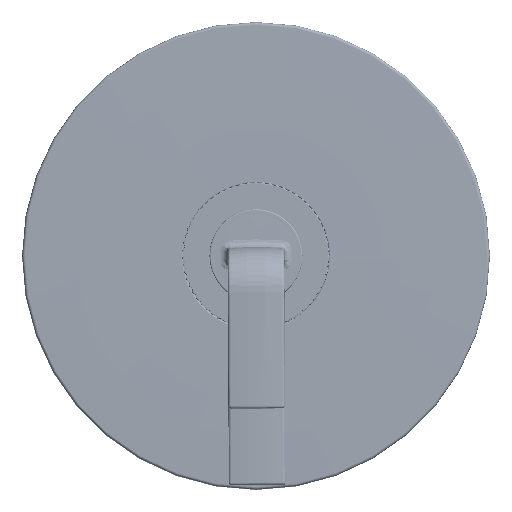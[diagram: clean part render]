
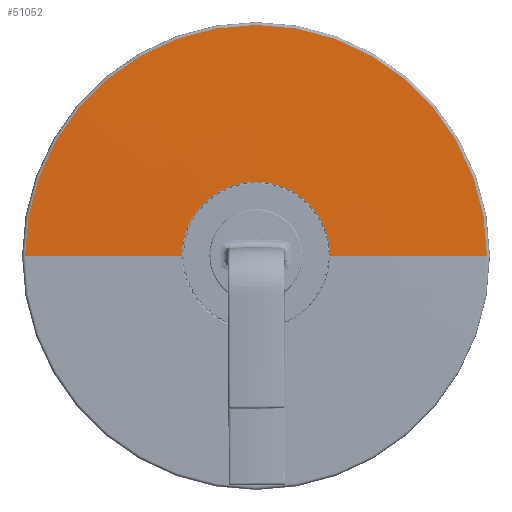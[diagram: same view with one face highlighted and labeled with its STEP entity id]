
A CAD part, top view. The second image highlights one B-rep face of the part: STEP entity #51052.
In plain terms, the highlighted toroidal (fillet/blend) face has major radius 25.718 mm and minor radius 3179.32 mm.
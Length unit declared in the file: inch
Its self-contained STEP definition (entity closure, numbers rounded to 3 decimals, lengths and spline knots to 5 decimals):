
#21396 = DIRECTION ( 'NONE',  ( 0., 1., 0. ) ) ;
#51052 = ADVANCED_FACE ( 'NONE', ( #579165 ), #390636, .T. ) ;
#72453 = DIRECTION ( 'NONE',  ( 0., -1., 0. ) ) ;
#127222 = ORIENTED_EDGE ( 'NONE', *, *, #437115, .T. ) ;
#139523 = CARTESIAN_POINT ( 'NONE',  ( 1.0125, 0., -124.67016 ) ) ;
#144097 = ORIENTED_EDGE ( 'NONE', *, *, #641010, .T. ) ;
#155013 = DIRECTION ( 'NONE',  ( 0., 0., 1. ) ) ;
#163034 = DIRECTION ( 'NONE',  ( 0., 0., -1. ) ) ;
#181475 = VERTEX_POINT ( 'NONE', #527647 ) ;
#221951 = CARTESIAN_POINT ( 'NONE',  ( 0., 0., 0.5 ) ) ;
#223650 = AXIS2_PLACEMENT_3D ( 'NONE', #638175, #634719, #432888 ) ;
#260515 = VERTEX_POINT ( 'NONE', #633306 ) ;
#266165 = CARTESIAN_POINT ( 'NONE',  ( 0., 0., 0.48076 ) ) ;
#332972 = VERTEX_POINT ( 'NONE', #576419 ) ;
#334150 = VERTEX_POINT ( 'NONE', #554864 ) ;
#337516 = CIRCLE ( 'NONE', #404196, 125.17016 ) ;
#360241 = EDGE_CURVE ( 'NONE', #332972, #334150, #434023, .T. ) ;
#367170 = DIRECTION ( 'NONE',  ( -1., 0., 0. ) ) ;
#375232 = DIRECTION ( 'NONE',  ( -1., 0., 0. ) ) ;
#390636 = TOROIDAL_SURFACE ( 'NONE', #223650, 1.0125, 125.17016 ) ;
#402970 = EDGE_LOOP ( 'NONE', ( #144097, #127222, #539887, #464485 ) ) ;
#404196 = AXIS2_PLACEMENT_3D ( 'NONE', #139523, #21396, #511760 ) ;
#425570 = AXIS2_PLACEMENT_3D ( 'NONE', #637193, #72453, #640626 ) ;
#432888 = DIRECTION ( 'NONE',  ( -1., 0., 0. ) ) ;
#434023 = CIRCLE ( 'NONE', #522929, 3.20702 ) ;
#437115 = EDGE_CURVE ( 'NONE', #181475, #332972, #337516, .T. ) ;
#464485 = ORIENTED_EDGE ( 'NONE', *, *, #466815, .F. ) ;
#466815 = EDGE_CURVE ( 'NONE', #260515, #334150, #469759, .T. ) ;
#469759 = CIRCLE ( 'NONE', #425570, 125.17016 ) ;
#511760 = DIRECTION ( 'NONE',  ( -1., 0., 0. ) ) ;
#522929 = AXIS2_PLACEMENT_3D ( 'NONE', #266165, #155013, #367170 ) ;
#527647 = CARTESIAN_POINT ( 'NONE',  ( 1.0325, 0., 0.5 ) ) ;
#539887 = ORIENTED_EDGE ( 'NONE', *, *, #360241, .T. ) ;
#540809 = AXIS2_PLACEMENT_3D ( 'NONE', #221951, #163034, #375232 ) ;
#554864 = CARTESIAN_POINT ( 'NONE',  ( -3.20702, 0., 0.48076 ) ) ;
#576419 = CARTESIAN_POINT ( 'NONE',  ( 3.20702, 0., 0.48076 ) ) ;
#579165 = FACE_OUTER_BOUND ( 'NONE', #402970, .T. ) ;
#633306 = CARTESIAN_POINT ( 'NONE',  ( -1.0325, 0., 0.5 ) ) ;
#634719 = DIRECTION ( 'NONE',  ( 0., 0., -1. ) ) ;
#637193 = CARTESIAN_POINT ( 'NONE',  ( -1.0125, 0., -124.67016 ) ) ;
#638175 = CARTESIAN_POINT ( 'NONE',  ( 0., 0., -124.67016 ) ) ;
#640626 = DIRECTION ( 'NONE',  ( 0., 0., -1. ) ) ;
#641010 = EDGE_CURVE ( 'NONE', #260515, #181475, #686310, .T. ) ;
#686310 = CIRCLE ( 'NONE', #540809, 1.0325 ) ;
